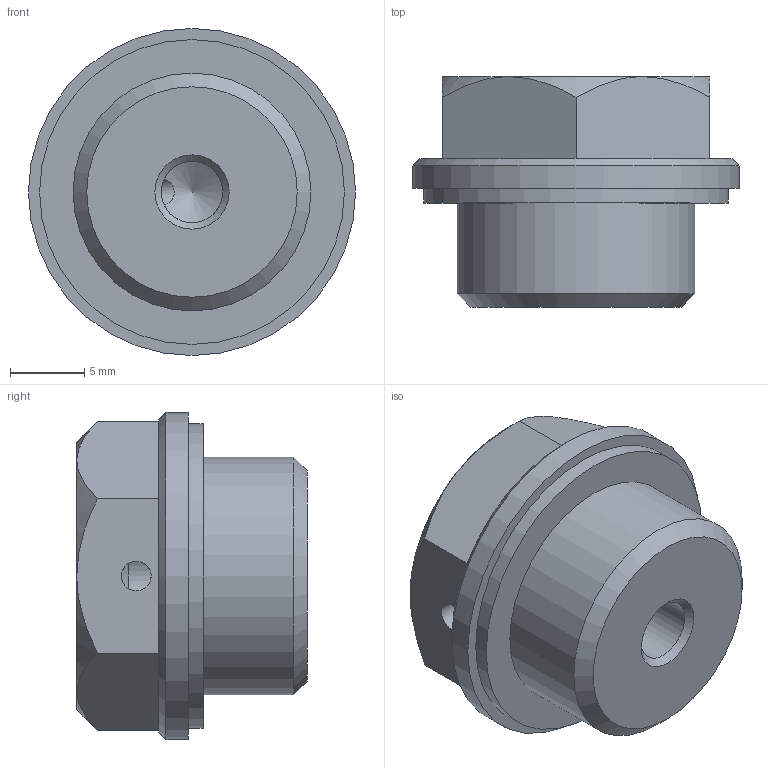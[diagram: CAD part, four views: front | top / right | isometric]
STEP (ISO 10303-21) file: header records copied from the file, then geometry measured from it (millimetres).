
FILE_DESCRIPTION( ( 'STEP AP203' ), '1' );
FILE_NAME( 'C:/Temp/Ganter_Step_05_03_2020/data/3_5/gn742/gn742_2/Threaded plug GN 742-22-M16x1,5-AS-2.stp', '2020-03-12T13:39:21', ( 'License CC BY-ND 4.0' ), ( 'CADENAS' ), ' ', 'PARTsolutions', ' ' );
FILE_SCHEMA( ( 'CONFIG_CONTROL_DESIGN' ) );
Length unit declared in the file: millimetre
Products named in the file (1): _Threaded plug GN 742-22-M16x1,5-AS-2
Bounding box: 22 x 15.5 x 22 mm (x, y, z)
Volume: 3810.3 mm3; surface area: 1785 mm2
Topology: 1 solids, 1 shells, 53 faces, 131 edges, 84 vertices
Faces by surface type: plane 38, cone 10, cylinder 5
Full cylindrical faces by diameter (mm): 2 x1, 4.134 x1, 16 x1, 20.5 x1, 22 x1
Entity records: 1621 total; most frequent: CARTESIAN_POINT 381, ORIENTED_EDGE 238, DIRECTION 231, EDGE_CURVE 119, LINE 87, VECTOR 87, VERTEX_POINT 82, AXIS2_PLACEMENT_3D 72
